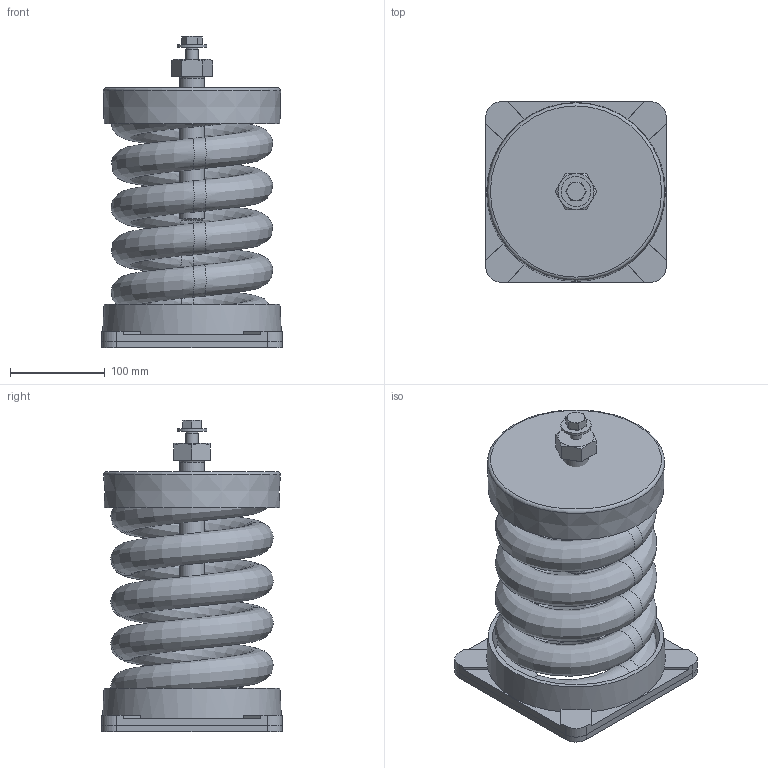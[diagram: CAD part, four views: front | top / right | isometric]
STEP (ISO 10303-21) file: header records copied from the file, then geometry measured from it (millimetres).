
FILE_DESCRIPTION(/* description */ (''),/* implementation_level */ '2;1');
FILE_NAME(/* name */ 'C:\001_Work\Designs\SLF ASSEMBLIES\SLF-115.stp',/* time_stamp */ '2016-01-10T14:04:10-05:00',/* author */ ('rramoutar'),/* organization */ ('Mason Industries Inc.'),/* preprocessor_version */ 'ST-DEVELOPER v15.6',/* originating_system */ 'Autodesk Inventor 2015',/* authorisation */ '');
FILE_SCHEMA (('CONFIG_CONTROL_DESIGN'));
Products named in the file (1): SLF-115
Bounding box: 190.5 x 190.5 x 329.29 mm (x, y, z)
Volume: 1946934.9 mm3; surface area: 725865.3 mm2
Topology: 7 solids, 7 shells, 227 faces, 519 edges, 315 vertices
Faces by surface type: plane 135, bspline 33, cone 30, cylinder 26, torus 3
Full cylindrical faces by diameter (mm): 10.592 x1, 12.7 x5, 13.487 x1, 19.05 x1, 22.225 x1, 25.959 x1, 31.75 x1, 38.1 x1, 95.25 x2, 176.212 x2
Entity records: 67062 total; most frequent: CARTESIAN_POINT 62166, ORIENTED_EDGE 976, DIRECTION 852, EDGE_CURVE 488, AXIS2_PLACEMENT_3D 310, VERTEX_POINT 309, EDGE_LOOP 271, STYLED_ITEM 234
